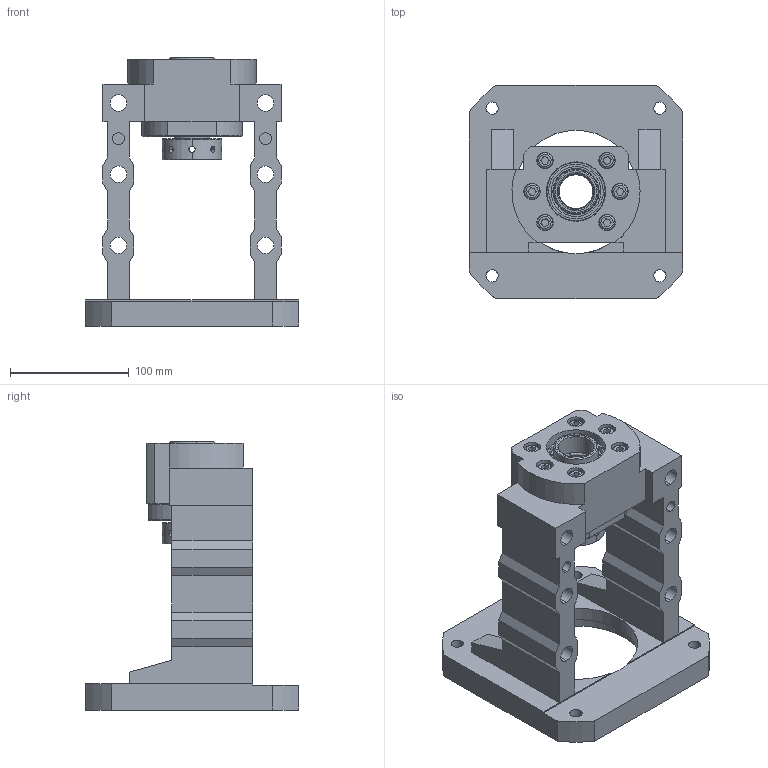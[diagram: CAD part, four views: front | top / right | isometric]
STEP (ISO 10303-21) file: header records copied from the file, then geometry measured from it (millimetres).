
FILE_DESCRIPTION (( 'STEP AP203' ), '1' );
FILE_NAME ('MBCS30-H²Õ¦X¥ó.STEP', '2022-10-20T06:25:57', ( '' ), ( '' ), 'SwSTEP 2.0', 'SolidWorks 2018', '' );
FILE_SCHEMA (( 'CONFIG_CONTROL_DESIGN' ));
Length unit declared in the file: millimetre
Products named in the file (1): MBCS30-H組合件
Bounding box: 180 x 180 x 226 mm (x, y, z)
Surface area: 219082.6 mm2 (no closed solid volume)
Topology: 0 solids, 22 shells, 350 faces, 967 edges, 635 vertices
Faces by surface type: plane 134, cylinder 130, cone 62, torus 24
Entity records: 12439 total; most frequent: CARTESIAN_POINT 3375, DIRECTION 1936, ORIENTED_EDGE 1715, EDGE_CURVE 959, AXIS2_PLACEMENT_3D 732, VERTEX_POINT 635, VECTOR 472, LINE 472
